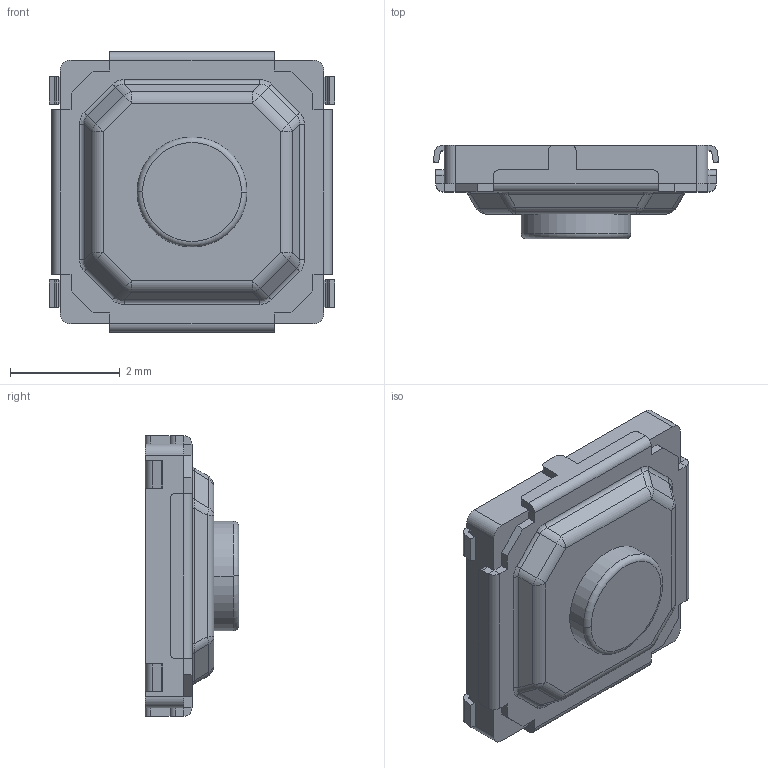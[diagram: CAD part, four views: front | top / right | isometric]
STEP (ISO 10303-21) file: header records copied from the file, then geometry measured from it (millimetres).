
FILE_DESCRIPTION((''),'2;1');
FILE_NAME('JQH5252B-B0175-01BEG-1-105_ASM','2026-05-22T17:35:08',('Admin'),(''),'CREO PARAMETRIC BY PTC INC, 2019224','CREO PARAMETRIC BY PTC INC, 2019224','');
FILE_SCHEMA(('AUTOMOTIVE_DESIGN { 1 0 10303 214 1 1 1 1 }'));
Length unit declared in the file: millimetre
Products named in the file (3): JQH5252B-B0175-01BEG-1-105_01; JQH5252B-B0175-01BEG-1-105_02; JQH5252B-B0175-01BEG-1-105_ASM
Assembly tree (2 placements, depth 2):
  JQH5252B-B0175-01BEG-1-105_ASM
    JQH5252B-B0175-01BEG-1-105_01
    JQH5252B-B0175-01BEG-1-105_02
Bounding box: 5.2 x 1.7 x 5.1 mm (x, y, z)
Volume: 26.8 mm3; surface area: 122.3 mm2
Topology: 2 solids, 2 shells, 270 faces, 634 edges, 374 vertices
Faces by surface type: plane 116, cylinder 104, bspline 24, sphere 24, torus 2
Entity records: 10018 total; most frequent: CARTESIAN_POINT 2670, DIRECTION 1288, ORIENTED_EDGE 1264, EDGE_CURVE 632, AXIS2_PLACEMENT_3D 445, VECTOR 398, LINE 398, VERTEX_POINT 370
